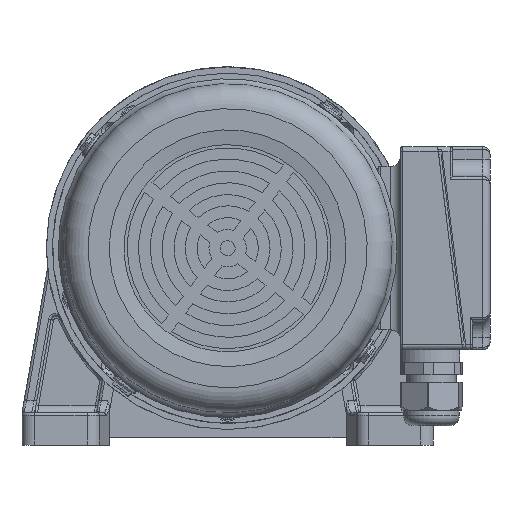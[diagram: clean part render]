
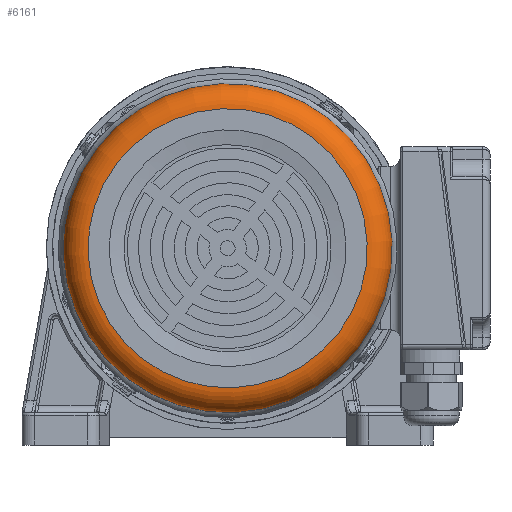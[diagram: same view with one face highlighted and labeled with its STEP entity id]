
A CAD part, left-side view. The second image highlights one B-rep face of the part: STEP entity #6161.
In plain terms, the highlighted toroidal (fillet/blend) face has major radius 56 mm and minor radius 10 mm.
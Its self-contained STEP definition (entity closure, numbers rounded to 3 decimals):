
#435=TOROIDAL_SURFACE('',#62229,56.,10.);
#2881=FACE_BOUND('',#13853,.T.);
#2882=FACE_BOUND('',#13854,.T.);
#6161=ADVANCED_FACE('',(#2881,#2882),#435,.T.);
#13853=EDGE_LOOP('',(#30989));
#13854=EDGE_LOOP('',(#30990));
#30989=ORIENTED_EDGE('',*,*,#52114,.T.);
#30990=ORIENTED_EDGE('',*,*,#50422,.F.);
#44560=VERTEX_POINT('',#83756);
#45668=VERTEX_POINT('',#90423);
#50422=EDGE_CURVE('',#44560,#44560,#58691,.T.);
#52114=EDGE_CURVE('',#45668,#45668,#59288,.T.);
#58691=CIRCLE('',#61073,56.);
#59288=CIRCLE('',#62228,66.);
#61073=AXIS2_PLACEMENT_3D('',#83755,#67469,#67470);
#62228=AXIS2_PLACEMENT_3D('',#90422,#70589,#70590);
#62229=AXIS2_PLACEMENT_3D('',#90424,#70591,#70592);
#67469=DIRECTION('',(-1.,0.,0.));
#67470=DIRECTION('',(0.,-0.609,0.793));
#70589=DIRECTION('',(-1.,0.,0.));
#70590=DIRECTION('',(0.,-0.609,0.793));
#70591=DIRECTION('',(-1.,0.,0.));
#70592=DIRECTION('',(0.,-0.609,0.793));
#83755=CARTESIAN_POINT('',(-58.199,442.752,-455.702));
#83756=CARTESIAN_POINT('',(-58.199,408.662,-411.274));
#90422=CARTESIAN_POINT('',(-48.199,442.752,-455.702));
#90423=CARTESIAN_POINT('',(-48.199,402.574,-403.341));
#90424=CARTESIAN_POINT('',(-48.199,442.752,-455.702));
